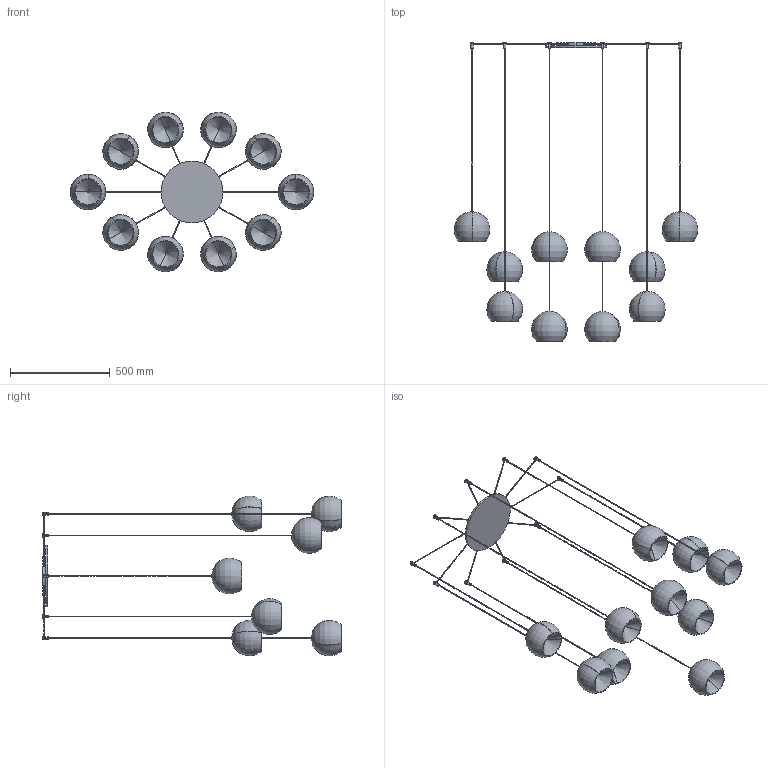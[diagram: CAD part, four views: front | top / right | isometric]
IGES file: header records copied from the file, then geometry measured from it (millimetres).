
Start section: SolidWorks IGES file using analytic representation for surfaces
Global section: file name: Y:\eforma\TECNICO\SOLIDWORKS\E-FORMA\09-LAMPADE\CHERRY\08 modelli 3D web\CHR11-00-CHERRY_10 sospensione.IGS; native system: SolidWorks 2022; preprocessor: SolidWorks 2022; author: eforma.tech; date: 240801.143757; units: millimetre
Bounding box: 1223.26 x 1500 x 802.17 mm (x, y, z)
Volume: 3279603.1 mm3; surface area: 2459187.7 mm2
Topology: 51 solids, 51 shells, 380 faces, 805 edges, 508 vertices
Faces by surface type: revolution 265, plane 115
